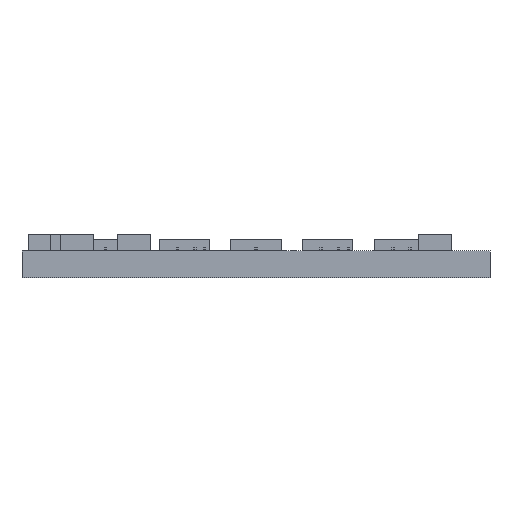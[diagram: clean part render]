
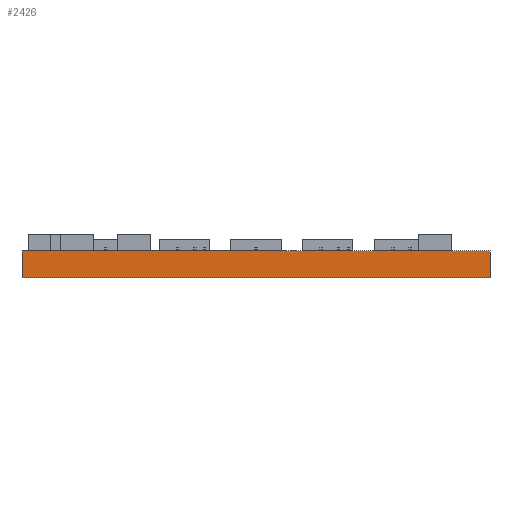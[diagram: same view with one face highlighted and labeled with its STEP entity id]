
A CAD part, left-side view. The second image highlights one B-rep face of the part: STEP entity #2426.
In plain terms, the highlighted planar face has unit normal (-1, 0, 0).
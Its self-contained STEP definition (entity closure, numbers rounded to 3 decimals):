
#15=DIRECTION('',(0.,-1.,0.));
#16=VECTOR('',#15,28.);
#17=CARTESIAN_POINT('',(-14.,14.,0.));
#18=LINE('',#17,#16);
#652=DIRECTION('',(0.,0.,1.));
#653=VECTOR('',#652,1.6);
#654=CARTESIAN_POINT('',(-14.,14.,0.));
#655=LINE('',#654,#653);
#673=DIRECTION('',(0.,0.,1.));
#674=VECTOR('',#673,1.6);
#675=CARTESIAN_POINT('',(-14.,-14.,0.));
#676=LINE('',#675,#674);
#680=DIRECTION('',(0.,-1.,0.));
#681=VECTOR('',#680,28.);
#682=CARTESIAN_POINT('',(-14.,14.,1.6));
#683=LINE('',#682,#681);
#1848=CARTESIAN_POINT('',(-14.,14.,0.));
#1849=CARTESIAN_POINT('',(-14.,-14.,0.));
#1850=VERTEX_POINT('',#1848);
#1851=VERTEX_POINT('',#1849);
#1856=CARTESIAN_POINT('',(-14.,14.,1.6));
#1857=CARTESIAN_POINT('',(-14.,-14.,1.6));
#1858=VERTEX_POINT('',#1856);
#1859=VERTEX_POINT('',#1857);
#2412=CARTESIAN_POINT('',(-14.,14.,0.));
#2413=DIRECTION('',(-1.,0.,0.));
#2414=DIRECTION('',(0.,-1.,0.));
#2415=AXIS2_PLACEMENT_3D('',#2412,#2413,#2414);
#2416=PLANE('',#2415);
#2417=ORIENTED_EDGE('',*,*,#2173,.F.);
#2419=ORIENTED_EDGE('',*,*,#2418,.T.);
#2421=ORIENTED_EDGE('',*,*,#2420,.T.);
#2423=ORIENTED_EDGE('',*,*,#2422,.F.);
#2424=EDGE_LOOP('',(#2417,#2419,#2421,#2423));
#2425=FACE_OUTER_BOUND('',#2424,.F.);
#2173=EDGE_CURVE('',#1850,#1851,#18,.T.);
#2418=EDGE_CURVE('',#1850,#1858,#655,.T.);
#2420=EDGE_CURVE('',#1858,#1859,#683,.T.);
#2422=EDGE_CURVE('',#1851,#1859,#676,.T.);
#2426=ADVANCED_FACE('',(#2425),#2416,.T.);
